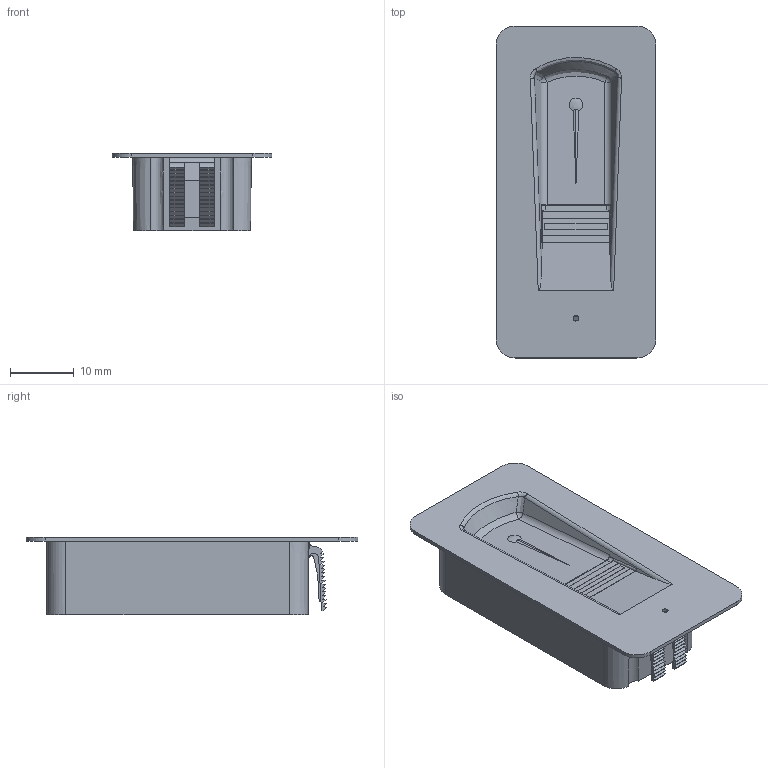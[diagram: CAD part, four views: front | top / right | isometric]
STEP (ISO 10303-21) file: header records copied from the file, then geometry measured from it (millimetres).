
FILE_DESCRIPTION( ( 'FS arte 52x25 glue type' ), '1' );
FILE_NAME( 'C:/Users/holp/Desktop/FS arte glue type 52x25/3D data FS arte glue type 52x25.stp', 'Unknown', ( 'holp' ), ( 'ekey biometric systems' ), 'PSStep 17.0.49', 'Solid Edge', ' ' );
FILE_SCHEMA( ( 'AUTOMOTIVE_DESIGN { 1 0 10303 214 1 1 1 1 }' ) );
Length unit declared in the file: millimetre
Products named in the file (4): Assem1; Frame; Circuit Board; Finger swipe area 52x25
Assembly tree (3 placements, depth 2):
  Assem1
    Frame
    Circuit Board
    Finger swipe area 52x25
Bounding box: 25.1 x 52.1 x 12.1 mm (x, y, z)
Volume: 3845.6 mm3; surface area: 7574.7 mm2
Topology: 3 solids, 3 shells, 877 faces, 2448 edges, 1535 vertices
Faces by surface type: plane 552, sphere 195, cylinder 94, bspline 16, extrusion 10, cone 10
Full cylindrical faces by diameter (mm): 0.189 x5, 0.9 x1, 2.3 x2
Entity records: 41859 total; most frequent: CARTESIAN_POINT 12651, ORIENTED_EDGE 4684, DIRECTION 4430, EDGE_CURVE 2342, VERTEX_POINT 1533, VECTOR 1492, LINE 1482, AXIS2_PLACEMENT_3D 1469
